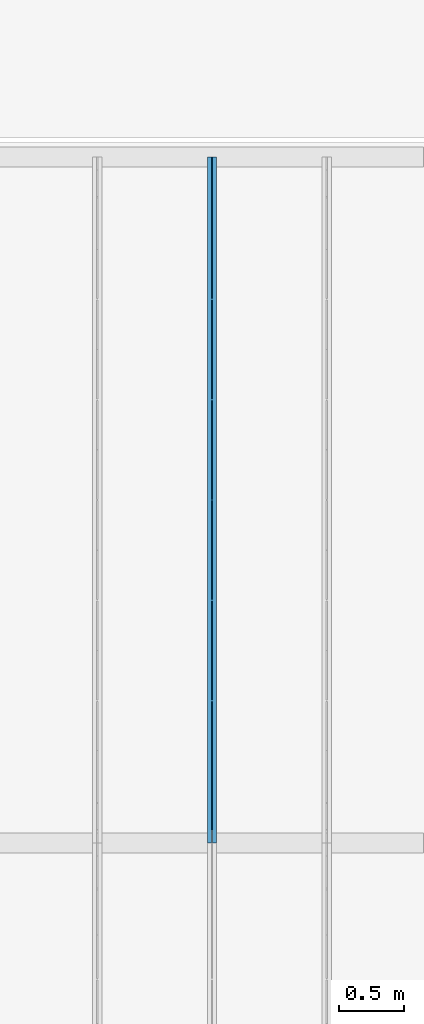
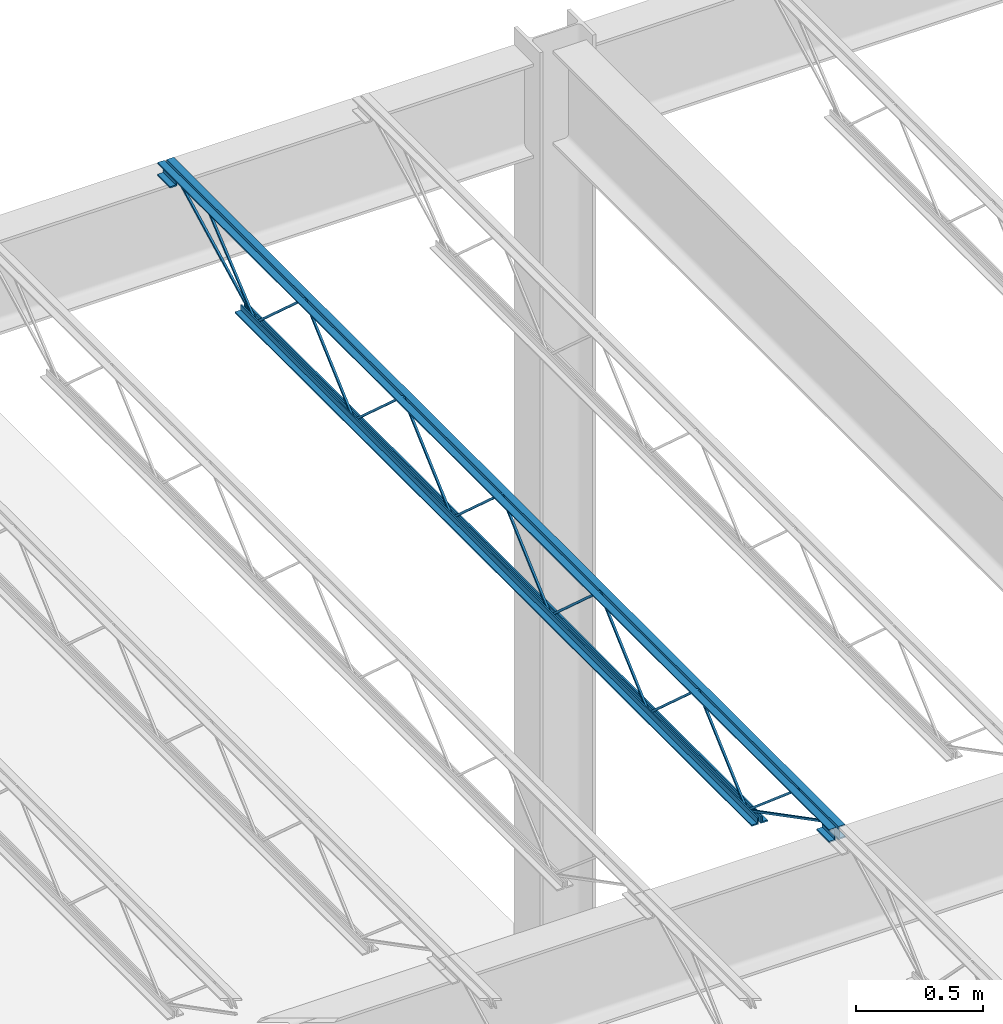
# One storey, part 93 of 119: 1 beam.
"""IFC2X3 building model written with IfcOpenShell, lengths in metres."""

from ifc_helpers import new_model, entity, si_unit, converted_unit, frame, origin, place, context, project, spatial, face_set, surface_model, element, save


model = new_model("IFC2X3")

# Units and contexts
model_context = context("Model", 3, precision=1e-09, world=origin())
plan_context = context("Plan", 3, precision=1e-09, world=origin())
ifc_project = project(units=[si_unit("LENGTHUNIT", "METRE"), si_unit("AREAUNIT", "SQUARE_METRE"), si_unit("VOLUMEUNIT", "CUBIC_METRE"), converted_unit("PLANEANGLEUNIT", "DEGREE", entity("IfcRatioMeasure", 0.01745329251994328), si_unit("PLANEANGLEUNIT", "RADIAN"), dimensions=[0, 0, 0, 0, 0, 0, 0]), si_unit("TIMEUNIT", "SECOND")], contexts=[model_context, plan_context])

# Site, building, storey
site_placement = place(None, origin())
site = spatial("IfcSite", under=ifc_project, at=site_placement, Name="Default", CompositionType="ELEMENT")
building_placement = place(site_placement, origin())
building = spatial("IfcBuilding", under=site, at=building_placement, CompositionType="ELEMENT")
storey_placement = place(building_placement, frame((0.0, 0.0, 4.570000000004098)))
storey = spatial("IfcBuildingStorey", under=building, at=storey_placement, Name="Second Floor", CompositionType="ELEMENT", Elevation=4.570000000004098)

# Beam
beam_placement = place(storey_placement, frame((-28.25425, 44.7805, 4.323999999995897), z_axis=(0.0, 0.0, 1.0), x_axis=(-1.0, 0.0, 0.0)))
element("IfcBeam", 1, at=beam_placement, inside=storey, Name="M_K-Series Bar Joist-Rod Web:14K1:14K1", ObjectType="M_K-Series Bar Joist-Rod Web:14K1", context=model_context, shape_type="SurfaceModel", body=[
    surface_model("IfcFaceBasedSurfaceModel", [(-0.0320000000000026, -2.266000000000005, 0.01110000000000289), (-0.04150000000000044, -2.266000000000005, 0.01110000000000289), (-0.04150000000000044, -2.266000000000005, 0.001600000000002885), (-0.0320000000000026, -2.266000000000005, 0.001600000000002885), (-0.04150000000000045, -2.264645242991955, 0.01110000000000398), (-0.0320000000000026, -2.264645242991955, 0.01110000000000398), (-0.04150000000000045, -2.261004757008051, 0.001600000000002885), (-0.04150000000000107, -1.878854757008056, 0.3449000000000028), (-0.04150000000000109, -1.876145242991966, 0.3449000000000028), (-0.0415000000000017, -1.493995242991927, 0.001600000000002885), (-0.04150000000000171, -1.489000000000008, 0.001600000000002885), (-0.04150000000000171, -1.489000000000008, 0.01110000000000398), (-0.04150000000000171, -1.490354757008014, 0.01110000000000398), (-0.04150000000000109, -1.872504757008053, 0.3544000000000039), (-0.04150000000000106, -1.88249524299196, 0.3544000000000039), (-0.03199999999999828, -2.261004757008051, 0.001600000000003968), (-0.03200000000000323, -1.878854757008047, 0.3449000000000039), (-0.03200000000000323, -1.876145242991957, 0.3449000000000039), (-0.03200000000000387, -1.493995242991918, 0.001600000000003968), (-0.03200000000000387, -1.489000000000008, 0.001600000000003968), (-0.03200000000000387, -1.489000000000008, 0.01110000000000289), (-0.03200000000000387, -1.490354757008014, 0.01110000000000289), (-0.03200000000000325, -1.872504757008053, 0.3544000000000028), (-0.03200000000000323, -1.88249524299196, 0.3544000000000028), (-0.03200000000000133, -3.043000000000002, 0.01110000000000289), (-0.04149999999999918, -3.043000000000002, 0.01110000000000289), (-0.04149999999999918, -3.043000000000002, 0.001600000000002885), (-0.03200000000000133, -3.043000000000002, 0.001600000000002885), (-0.04149999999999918, -3.041645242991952, 0.01110000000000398), (-0.03200000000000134, -3.041645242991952, 0.01110000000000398), (-0.04149999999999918, -3.038004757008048, 0.001600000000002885), (-0.0414999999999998, -2.655854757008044, 0.3449000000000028), (-0.04149999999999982, -2.653145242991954, 0.3449000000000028), (-0.04150000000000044, -2.270995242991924, 0.001600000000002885), (-0.04150000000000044, -2.266000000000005, 0.01110000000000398), (-0.04150000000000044, -2.267354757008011, 0.01110000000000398), (-0.04149999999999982, -2.649504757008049, 0.3544000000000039), (-0.0414999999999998, -2.659495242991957, 0.3544000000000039), (-0.03199999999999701, -3.038004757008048, 0.001600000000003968), (-0.03200000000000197, -2.655854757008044, 0.3449000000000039), (-0.03200000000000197, -2.653145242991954, 0.3449000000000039), (-0.0320000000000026, -2.270995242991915, 0.001600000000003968), (-0.0320000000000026, -2.266000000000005, 0.001600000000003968), (-0.0320000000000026, -2.267354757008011, 0.01110000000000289), (-0.03200000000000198, -2.649504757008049, 0.3544000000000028), (-0.03200000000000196, -2.659495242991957, 0.3544000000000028), (-0.03200000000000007, -3.819999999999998, 0.01110000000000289), (-0.04149999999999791, -3.819999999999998, 0.01110000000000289), (-0.04149999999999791, -3.819999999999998, 0.001600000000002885), (-0.03200000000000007, -3.819999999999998, 0.001600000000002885), (-0.04149999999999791, -3.818645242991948, 0.01110000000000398), (-0.03200000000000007, -3.818645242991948, 0.01110000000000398), (-0.04149999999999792, -3.815004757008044, 0.001600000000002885), (-0.04149999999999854, -3.432854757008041, 0.3449000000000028), (-0.04149999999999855, -3.43014524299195, 0.3449000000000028), (-0.04149999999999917, -3.047995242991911, 0.001600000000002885), (-0.04149999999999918, -3.042999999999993, 0.001600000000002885), (-0.04149999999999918, -3.043000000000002, 0.01110000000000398), (-0.04149999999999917, -3.044354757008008, 0.01110000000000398), (-0.04149999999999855, -3.426504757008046, 0.3544000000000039), (-0.04149999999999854, -3.436495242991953, 0.3544000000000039), (-0.03199999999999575, -3.815004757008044, 0.001600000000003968), (-0.0320000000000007, -3.432854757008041, 0.3449000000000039), (-0.0320000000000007, -3.43014524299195, 0.3449000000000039), (-0.03200000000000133, -3.047995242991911, 0.001600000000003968), (-0.03200000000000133, -3.043000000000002, 0.001600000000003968), (-0.03200000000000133, -3.042999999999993, 0.01110000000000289), (-0.03200000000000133, -3.044354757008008, 0.01110000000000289), (-0.03200000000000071, -3.426504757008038, 0.3544000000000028), (-0.0320000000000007, -3.436495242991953, 0.3544000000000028), (-0.0320000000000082, -1.489000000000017, 0.01109999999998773), (-0.04150000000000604, -1.489000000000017, 0.01109999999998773), (-0.04150000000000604, -1.489000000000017, 0.001599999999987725), (-0.0320000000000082, -1.489000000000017, 0.001599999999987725), (-0.04150000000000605, -1.487645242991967, 0.01109999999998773), (-0.0320000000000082, -1.487645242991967, 0.01109999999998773), (-0.04150000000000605, -1.484004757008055, 0.001599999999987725), (-0.04150000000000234, -1.101854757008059, 0.3448999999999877), (-0.04150000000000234, -1.099145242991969, 0.3448999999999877), (-0.04150000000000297, -0.7169952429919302, 0.001599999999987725), (-0.04150000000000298, -0.7120000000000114, 0.001599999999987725), (-0.04150000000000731, -0.7120000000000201, 0.01109999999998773), (-0.04150000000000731, -0.7133547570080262, 0.01109999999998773), (-0.04150000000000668, -1.095504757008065, 0.3543999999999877), (-0.04150000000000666, -1.105495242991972, 0.3543999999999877), (-0.03200000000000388, -1.484004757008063, 0.001599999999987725), (-0.03200000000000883, -1.101854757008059, 0.3448999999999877), (-0.03200000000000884, -1.099145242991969, 0.3448999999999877), (-0.03200000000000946, -0.7169952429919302, 0.001599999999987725), (-0.03200000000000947, -0.7120000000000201, 0.001599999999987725), (-0.03200000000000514, -0.7120000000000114, 0.01109999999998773), (-0.03200000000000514, -0.7133547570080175, 0.01109999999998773), (-0.03200000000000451, -1.095504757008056, 0.3543999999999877), (-0.0320000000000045, -1.105495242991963, 0.3543999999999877), (-0.03200000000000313, -4.596999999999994, 0.01110000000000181), (-0.04150000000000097, -4.596999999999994, 0.01110000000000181), (-0.04150000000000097, -4.596999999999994, 0.001600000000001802), (-0.03200000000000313, -4.596999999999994, 0.001600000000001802), (-0.04150000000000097, -4.595645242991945, 0.01110000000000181), (-0.03200000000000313, -4.595645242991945, 0.01110000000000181), (-0.04150000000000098, -4.592004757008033, 0.001600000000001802), (-0.04150000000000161, -4.209854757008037, 0.3449000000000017), (-0.04150000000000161, -4.207145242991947, 0.3449000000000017), (-0.0414999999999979, -3.824995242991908, 0.001600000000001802), (-0.04149999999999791, -3.819999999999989, 0.001600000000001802), (-0.04150000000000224, -3.819999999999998, 0.01110000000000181), (-0.04150000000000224, -3.821354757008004, 0.01110000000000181), (-0.04150000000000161, -4.203504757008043, 0.3544000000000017), (-0.0415000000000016, -4.21349524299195, 0.3544000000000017), (-0.03199999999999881, -4.592004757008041, 0.001600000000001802), (-0.03200000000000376, -4.209854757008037, 0.3449000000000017), (-0.03200000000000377, -4.207145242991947, 0.3449000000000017), (-0.03200000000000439, -3.824995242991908, 0.001600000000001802), (-0.0320000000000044, -3.819999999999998, 0.001600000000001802), (-0.03200000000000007, -3.819999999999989, 0.01110000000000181), (-0.03200000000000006, -3.821354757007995, 0.01110000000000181), (-0.03200000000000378, -4.203504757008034, 0.3544000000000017), (-0.03200000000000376, -4.21349524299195, 0.3544000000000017), (-0.0414999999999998, 0.0, 0.3559999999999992), (-0.07350000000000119, 0.0, 0.3559999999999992), (-0.07350000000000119, 0.0, 0.3494999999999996), (-0.04799999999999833, 0.0, 0.3494999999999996), (-0.04799999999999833, 0.0, 0.3239999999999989), (-0.0414999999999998, 0.0, 0.3239999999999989), (-0.03200000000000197, 0.0, 0.3559999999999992), (-0.03200000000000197, 0.0, 0.3239999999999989), (-0.02549999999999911, 0.0, 0.3239999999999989), (-0.02549999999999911, 0.0, 0.3494999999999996), (0.0, 0.0, 0.3494999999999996), (0.0, 0.0, 0.3559999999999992), (-0.04149999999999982, -5.308999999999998, 0.3559999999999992), (-0.0735000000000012, -5.308999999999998, 0.3559999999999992), (-0.0735000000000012, -5.308999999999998, 0.3494999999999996), (-0.04799999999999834, -5.308999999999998, 0.3494999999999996), (-0.04799999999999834, -5.308999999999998, 0.3239999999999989), (-0.04149999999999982, -5.308999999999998, 0.3239999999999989), (-0.03200000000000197, -5.308999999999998, 0.3559999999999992), (-0.03200000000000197, -5.308999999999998, 0.3239999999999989), (-0.02549999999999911, -5.308999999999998, 0.3239999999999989), (-0.02549999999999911, -5.308999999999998, 0.3494999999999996), (0.0, -5.308999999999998, 0.3494999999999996), (0.0, -5.308999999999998, 0.3559999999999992), (-0.03200000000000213, -5.209000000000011, 0.2924999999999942), (0.0, -5.209000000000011, 0.2924999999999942), (0.0, -5.209000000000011, 0.2989999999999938), (-0.02550000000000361, -5.209000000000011, 0.2989999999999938), (-0.02550000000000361, -5.209000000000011, 0.3239999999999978), (-0.03200000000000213, -5.209000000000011, 0.3239999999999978), (-0.07350000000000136, -5.209000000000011, 0.2924999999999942), (-0.04149999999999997, -5.209000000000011, 0.2924999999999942), (-0.04149999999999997, -5.209000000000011, 0.3239999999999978), (-0.04800000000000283, -5.209000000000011, 0.3239999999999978), (-0.04800000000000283, -5.209000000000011, 0.2989999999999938), (-0.07350000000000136, -5.209000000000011, 0.2989999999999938), (-0.03200000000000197, -5.308999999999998, 0.2924999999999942), (0.0, -5.308999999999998, 0.2924999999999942), (0.0, -5.308999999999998, 0.2989999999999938), (-0.02550000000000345, -5.308999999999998, 0.2989999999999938), (-0.02550000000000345, -5.308999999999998, 0.3239999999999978), (-0.03200000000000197, -5.308999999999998, 0.3239999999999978), (-0.0735000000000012, -5.308999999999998, 0.2924999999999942), (-0.04149999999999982, -5.308999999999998, 0.2924999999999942), (-0.04149999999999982, -5.308999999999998, 0.3239999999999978), (-0.04800000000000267, -5.308999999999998, 0.3239999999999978), (-0.04800000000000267, -5.308999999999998, 0.2989999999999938), (-0.0735000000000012, -5.308999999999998, 0.2989999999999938), (-0.0414999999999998, 0.0, 0.2924999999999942), (-0.0414999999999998, 0.0, 0.3239999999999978), (-0.04800000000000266, 0.0, 0.3239999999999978), (-0.04800000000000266, 0.0, 0.2989999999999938), (-0.07350000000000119, 0.0, 0.2989999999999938), (-0.07350000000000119, 0.0, 0.2924999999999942), (-0.03200000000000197, 0.0, 0.2924999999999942), (0.0, 0.0, 0.2924999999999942), (0.0, 0.0, 0.2989999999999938), (-0.02550000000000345, 0.0, 0.2989999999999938), (-0.02550000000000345, 0.0, 0.3239999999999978), (-0.03200000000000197, 0.0, 0.3239999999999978), (-0.04149999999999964, -0.0999999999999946, 0.2924999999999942), (-0.04149999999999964, -0.0999999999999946, 0.3239999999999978), (-0.0480000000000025, -0.0999999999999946, 0.3239999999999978), (-0.0480000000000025, -0.0999999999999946, 0.2989999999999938), (-0.07350000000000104, -0.0999999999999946, 0.2989999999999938), (-0.07350000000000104, -0.0999999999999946, 0.2924999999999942), (-0.03200000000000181, -0.0999999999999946, 0.2924999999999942), (0.0, -0.0999999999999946, 0.2924999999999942), (0.0, -0.0999999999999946, 0.2989999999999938), (-0.02550000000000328, -0.0999999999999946, 0.2989999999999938), (-0.02550000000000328, -0.0999999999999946, 0.3239999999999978), (-0.03200000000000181, -0.0999999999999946, 0.3239999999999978), (-0.04149999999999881, -0.6119999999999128, 0.0), (-0.04149999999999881, -0.6119999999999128, 0.03199999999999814), (-0.04799999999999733, -0.6119999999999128, 0.03199999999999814), (-0.04799999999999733, -0.6119999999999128, 0.006499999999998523), (-0.07350000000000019, -0.6119999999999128, 0.006499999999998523), (-0.07350000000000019, -0.6119999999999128, 0.0), (-0.03200000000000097, -0.6119999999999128, 0.0), (0.0, -0.6119999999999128, 0.0), (0.0, -0.6119999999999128, 0.006499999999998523), (-0.02549999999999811, -0.6119999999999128, 0.006499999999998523), (-0.02549999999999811, -0.6119999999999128, 0.03199999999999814), (-0.03200000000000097, -0.6119999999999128, 0.03199999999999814), (-0.04150000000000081, -4.696999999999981, 0.0), (-0.04150000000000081, -4.696999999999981, 0.03199999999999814), (-0.04799999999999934, -4.696999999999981, 0.03199999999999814), (-0.04799999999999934, -4.696999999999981, 0.006499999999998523), (-0.0735000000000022, -4.696999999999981, 0.006499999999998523), (-0.0735000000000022, -4.696999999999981, 0.0), (-0.03200000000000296, -4.696999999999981, 0.0), (0.0, -4.696999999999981, 0.0), (0.0, -4.696999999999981, 0.006499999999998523), (-0.02550000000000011, -4.696999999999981, 0.006499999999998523), (-0.02550000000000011, -4.696999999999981, 0.03199999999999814), (-0.03200000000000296, -4.696999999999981, 0.03199999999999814), (-0.03200000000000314, -4.594811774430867, 0.01056594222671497), (-0.04150000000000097, -4.594811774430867, 0.01056594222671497), (-0.04150000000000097, -4.599188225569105, 0.00213405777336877), (-0.03200000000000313, -4.599188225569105, 0.00213405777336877), (-0.03200000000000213, -5.207840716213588, 0.3287499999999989), (-0.03200000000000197, -5.308999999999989, 0.3287499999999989), (-0.03200000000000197, -5.308999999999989, 0.3192499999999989), (-0.03200000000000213, -5.210159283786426, 0.3192499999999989), (-0.0415000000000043, -5.210159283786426, 0.3192499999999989), (-0.04149999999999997, -5.207840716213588, 0.3287499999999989), (-0.04149999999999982, -5.308999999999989, 0.3287499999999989), (-0.04149999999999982, -5.308999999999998, 0.3192499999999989), (-0.03200000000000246, -5.005457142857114, 0.3417000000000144), (-0.0415000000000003, -5.005457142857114, 0.3417000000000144), (-0.0415000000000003, -5.005457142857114, 0.3322000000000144), (-0.03200000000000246, -5.005457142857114, 0.3322000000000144), (-0.04150000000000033, -4.991034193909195, 0.3417000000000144), (-0.03200000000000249, -4.991034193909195, 0.3417000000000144), (-0.04150000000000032, -4.99448009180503, 0.3322000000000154), (-0.04150000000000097, -4.600045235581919, 0.002704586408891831), (-0.04150000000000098, -4.593954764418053, 0.009995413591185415), (-0.03199999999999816, -4.99448009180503, 0.3322000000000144), (-0.03200000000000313, -4.600045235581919, 0.002704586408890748), (-0.03200000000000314, -4.593954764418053, 0.009995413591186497), (-0.03200000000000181, -0.09781177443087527, 0.3197840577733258), (-0.03200000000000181, -0.1021882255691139, 0.328215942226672), (-0.04149999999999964, -0.1021882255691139, 0.328215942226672), (-0.04149999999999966, -0.09781177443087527, 0.3197840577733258), (-0.03200000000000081, -0.7098117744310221, 0.002134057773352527), (-0.0320000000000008, -0.7141882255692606, 0.01056594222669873), (-0.04149999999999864, -0.7141882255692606, 0.01056594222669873), (-0.04149999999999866, -0.7098117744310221, 0.002134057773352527), (-0.03200000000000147, -0.3059055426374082, 0.3460340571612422), (-0.03200000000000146, -0.3120658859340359, 0.35326594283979), (-0.04149999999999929, -0.3120658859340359, 0.3532659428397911), (-0.04149999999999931, -0.3059055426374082, 0.3460340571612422), (-0.03200000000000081, -0.7089198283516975, 0.002734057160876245), (-0.0320000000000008, -0.7150801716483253, 0.00996594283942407), (-0.04149999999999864, -0.7150801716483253, 0.00996594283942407), (-0.04149999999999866, -0.7089198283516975, 0.002734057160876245)], [face_set([[[0, 1, 2, 3]], [[1, 4, 5, 0]], [[2, 6, 7, 8, 9, 10, 11, 12, 13, 14, 4, 1]], [[3, 2, 6, 15]], [[0, 3, 15, 16, 17, 18, 19, 20, 21, 22, 23, 5]], [[4, 5, 23, 14]], [[15, 16, 7, 6]], [[14, 13, 22, 23]], [[16, 7, 8, 17]], [[13, 12, 21, 22]], [[17, 8, 9, 18]], [[20, 11, 10, 19]], [[12, 11, 20, 21]], [[18, 9, 10, 19]]]), face_set([[[24, 25, 26, 27]], [[25, 28, 29, 24]], [[26, 30, 31, 32, 33, 2, 34, 35, 36, 37, 28, 25]], [[27, 26, 30, 38]], [[24, 27, 38, 39, 40, 41, 42, 0, 43, 44, 45, 29]], [[28, 29, 45, 37]], [[38, 39, 31, 30]], [[37, 36, 44, 45]], [[39, 31, 32, 40]], [[36, 35, 43, 44]], [[40, 32, 33, 41]], [[0, 34, 2, 42]], [[35, 34, 0, 43]], [[41, 33, 2, 42]]]), face_set([[[46, 47, 48, 49]], [[47, 50, 51, 46]], [[48, 52, 53, 54, 55, 56, 57, 58, 59, 60, 50, 47]], [[49, 48, 52, 61]], [[46, 49, 61, 62, 63, 64, 65, 66, 67, 68, 69, 51]], [[50, 51, 69, 60]], [[61, 62, 53, 52]], [[60, 59, 68, 69]], [[62, 53, 54, 63]], [[59, 58, 67, 68]], [[63, 54, 55, 64]], [[66, 57, 56, 65]], [[58, 57, 66, 67]], [[64, 55, 56, 65]]]), face_set([[[70, 71, 72, 73]], [[71, 74, 75, 70]], [[72, 76, 77, 78, 79, 80, 81, 82, 83, 84, 74, 71]], [[73, 72, 76, 85]], [[70, 73, 85, 86, 87, 88, 89, 90, 91, 92, 93, 75]], [[74, 75, 93, 84]], [[85, 86, 77, 76]], [[84, 83, 92, 93]], [[86, 77, 78, 87]], [[83, 82, 91, 92]], [[87, 78, 79, 88]], [[90, 81, 80, 89]], [[82, 81, 90, 91]], [[88, 79, 80, 89]]]), face_set([[[94, 95, 96, 97]], [[95, 98, 99, 94]], [[96, 100, 101, 102, 103, 104, 105, 106, 107, 108, 98, 95]], [[97, 96, 100, 109]], [[94, 97, 109, 110, 111, 112, 113, 114, 115, 116, 117, 99]], [[98, 99, 117, 108]], [[109, 110, 101, 100]], [[108, 107, 116, 117]], [[110, 101, 102, 111]], [[107, 106, 115, 116]], [[111, 102, 103, 112]], [[114, 105, 104, 113]], [[106, 105, 114, 115]], [[112, 103, 104, 113]]]), face_set([[[118, 119, 120, 121, 122, 123]], [[124, 125, 126, 127, 128, 129]], [[130, 131, 132, 133, 134, 135]], [[136, 137, 138, 139, 140, 141]], [[123, 118, 130, 135]], [[122, 123, 135, 134]], [[121, 133, 134, 122]], [[120, 121, 133, 132]], [[119, 131, 132, 120]], [[118, 130, 131, 119]], [[129, 141, 136, 124]], [[128, 129, 141, 140]], [[127, 128, 140, 139]], [[126, 127, 139, 138]], [[125, 126, 138, 137]], [[124, 136, 137, 125]]]), face_set([[[142, 143, 144, 145, 146, 147]], [[148, 149, 150, 151, 152, 153]], [[154, 155, 156, 157, 158, 159]], [[160, 161, 162, 163, 164, 165]], [[147, 159, 154, 142]], [[146, 158, 159, 147]], [[145, 146, 158, 157]], [[144, 156, 157, 145]], [[143, 144, 156, 155]], [[142, 143, 155, 154]], [[153, 165, 160, 148]], [[152, 164, 165, 153]], [[151, 163, 164, 152]], [[150, 162, 163, 151]], [[149, 150, 162, 161]], [[148, 149, 161, 160]]]), face_set([[[166, 167, 168, 169, 170, 171]], [[172, 173, 174, 175, 176, 177]], [[178, 179, 180, 181, 182, 183]], [[184, 185, 186, 187, 188, 189]], [[171, 166, 178, 183]], [[170, 182, 183, 171]], [[169, 181, 182, 170]], [[168, 180, 181, 169]], [[167, 179, 180, 168]], [[166, 167, 179, 178]], [[177, 189, 184, 172]], [[176, 188, 189, 177]], [[175, 176, 188, 187]], [[174, 186, 187, 175]], [[173, 174, 186, 185]], [[172, 173, 185, 184]]]), face_set([[[190, 191, 192, 193, 194, 195]], [[196, 197, 198, 199, 200, 201]], [[202, 203, 204, 205, 206, 207]], [[208, 209, 210, 211, 212, 213]], [[195, 190, 202, 207]], [[194, 206, 207, 195]], [[193, 205, 206, 194]], [[192, 204, 205, 193]], [[191, 203, 204, 192]], [[190, 191, 203, 202]], [[201, 213, 208, 196]], [[200, 212, 213, 201]], [[199, 200, 212, 211]], [[198, 210, 211, 199]], [[197, 198, 210, 209]], [[196, 197, 209, 208]]]), face_set([[[214, 215, 216, 217]], [[217, 214, 218, 219, 220, 221]], [[216, 217, 221, 222]], [[215, 223, 224, 225, 222, 216]], [[214, 218, 223, 215]], [[219, 224, 225, 220]], [[222, 221, 220, 225]], [[218, 219, 224, 223]]]), face_set([[[226, 227, 228, 229]], [[227, 230, 231, 226]], [[228, 232, 233, 234, 230, 227]], [[229, 228, 232, 235]], [[226, 229, 235, 236, 237, 231]], [[237, 234, 233, 236]], [[230, 234, 237, 231]], [[235, 232, 233, 236]]]), face_set([[[238, 239, 240, 241]], [[242, 243, 244, 245]], [[241, 245, 242, 238]], [[240, 244, 245, 241]], [[239, 240, 244, 243]], [[238, 239, 243, 242]]]), face_set([[[246, 247, 248, 249]], [[250, 251, 252, 253]], [[249, 253, 250, 246]], [[248, 252, 253, 249]], [[247, 248, 252, 251]], [[246, 247, 251, 250]]])]),
])

save(model, "model.ifc")
